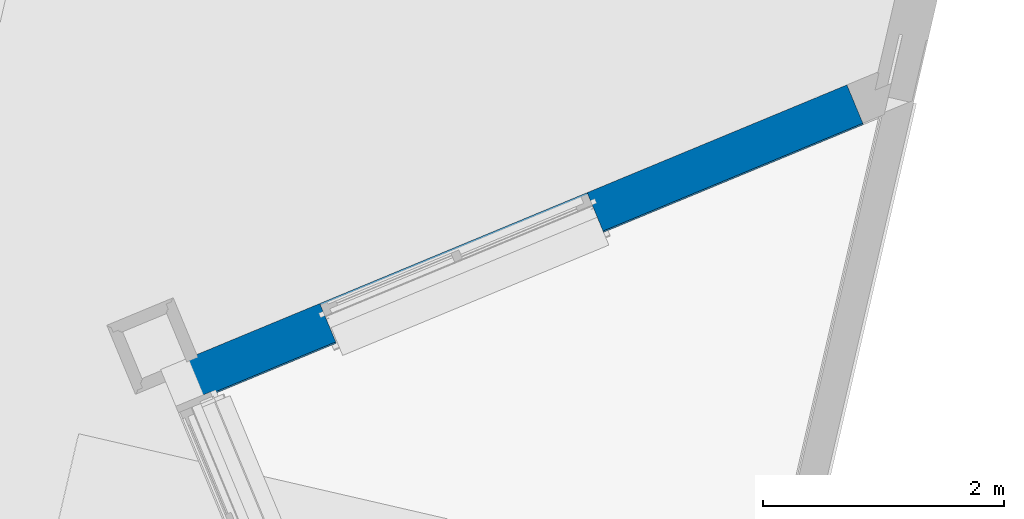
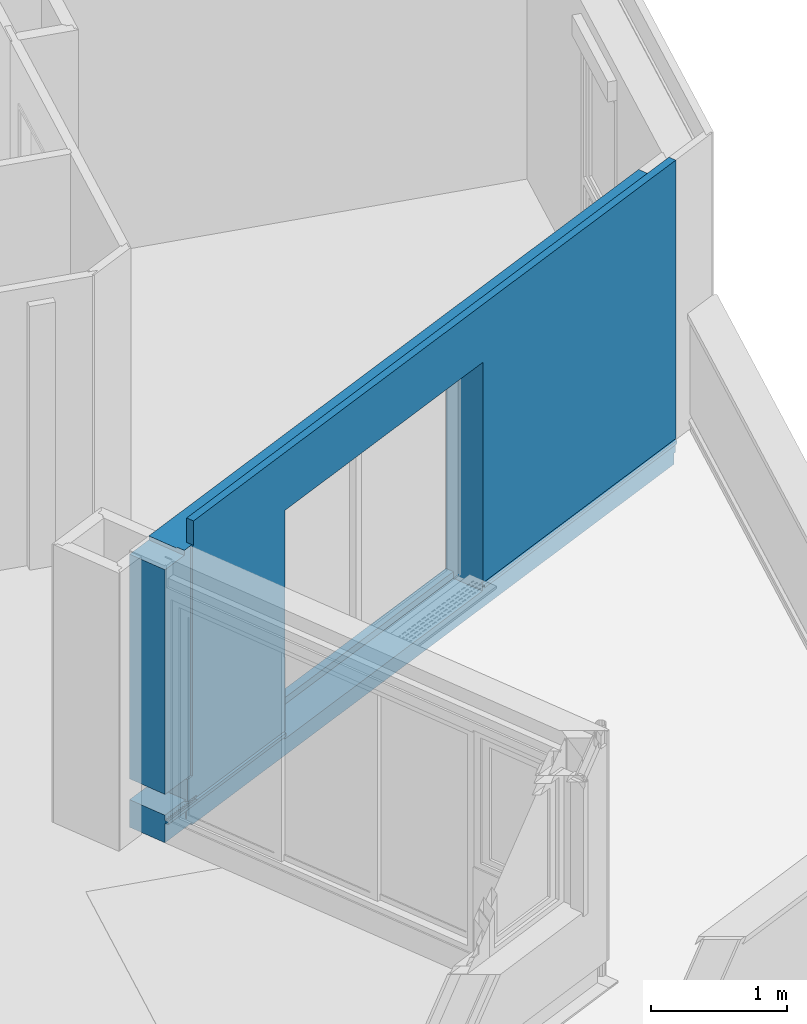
# One storey, part 5 of 62: 1 wall, 1 opening.
"""IFC2X3 building model written with IfcOpenShell, lengths in metres."""

from ifc_helpers import new_model, entity, si_unit, converted_unit, derived_unit, money_unit, direction, frame, origin_with_axes, place, context, subcontext, project, spatial, faceted_brep, material, material_list, type_object, element, save


model = new_model("IFC2X3")

# Units and contexts
model_context = context("Model", 3, precision=1e-05, world=origin_with_axes(), true_north=direction((0.0, 1.0)))
body_context = subcontext(model_context, "Body", "Model", "MODEL_VIEW")
ifc_project = project(units=[si_unit("LENGTHUNIT", "METRE"), si_unit("AREAUNIT", "SQUARE_METRE"), si_unit("VOLUMEUNIT", "CUBIC_METRE"), converted_unit("PLANEANGLEUNIT", "DEGREE", entity("IfcPlaneAngleMeasure", 0.0174532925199), si_unit("PLANEANGLEUNIT", "RADIAN"), dimensions=[0, 0, 0, 0, 0, 0, 0]), si_unit("SOLIDANGLEUNIT", "STERADIAN"), money_unit("EUR"), converted_unit("TIMEUNIT", "Year", entity("IfcTimeMeasure", 31556926.0), si_unit("TIMEUNIT", "SECOND"), dimensions=[0, 0, 1, 0, 0, 0, 0]), si_unit("MASSUNIT", "GRAM", prefix="KILO"), si_unit("THERMODYNAMICTEMPERATUREUNIT", "DEGREE_CELSIUS"), si_unit("LUMINOUSINTENSITYUNIT", "LUMEN"), si_unit("ENERGYUNIT", "JOULE", prefix="MEGA"), derived_unit("THERMALCONDUCTANCEUNIT", [(si_unit("POWERUNIT", "WATT"), 1), (si_unit("LENGTHUNIT", "METRE"), -1), (si_unit("THERMODYNAMICTEMPERATUREUNIT", "KELVIN"), -1)]), derived_unit("SPECIFICHEATCAPACITYUNIT", [(si_unit("ENERGYUNIT", "JOULE"), 1), (si_unit("MASSUNIT", "GRAM", prefix="KILO"), -1), (si_unit("THERMODYNAMICTEMPERATUREUNIT", "KELVIN"), -1)]), derived_unit("MASSDENSITYUNIT", [(si_unit("MASSUNIT", "GRAM", prefix="KILO"), 1), (si_unit("VOLUMEUNIT", "CUBIC_METRE"), -1)])], contexts=[model_context])

# Site, building, storey
site_placement = place(None, origin_with_axes())
site = spatial("IfcSite", under=ifc_project, at=site_placement, Name="Site", CompositionType="ELEMENT")
building_placement = place(site_placement, origin_with_axes())
building = spatial("IfcBuilding", under=site, at=building_placement, Name="Bâtiment", CompositionType="ELEMENT")
storey_placement = place(building_placement, frame((0.0, 0.0, 8.16), z_axis=(0.0, 0.0, 1.0), x_axis=(1.0, 0.0, 0.0)))
storey = spatial("IfcBuildingStorey", under=building, at=storey_placement, Name="R+3", CompositionType="ELEMENT", Elevation=8.16)

# Wall, opening
ifc_material_1 = material(Name="Finition int - Plaque de plâtre")
ifc_material_2 = material(Name="Isolation - Polystyrène extrudé")
ifc_material_3 = material(Name="Bloc ELITHERM")
ifc_material_4 = material(Name="Mortier")
ifc_material_5 = material(Name="Béton cellulaire")
ifc_material_6 = material(Name="Etanchéité - Bitume")
ifc_material_7 = material(Name="Finition ext - Crépis")
ifc_material_8 = material(Name="Métal - Aluminium")
ifc_material_list = material_list([ifc_material_1, ifc_material_2, ifc_material_3, ifc_material_4, ifc_material_5, ifc_material_6, ifc_material_7, ifc_material_8])
wall_type = type_object("IfcWallType", Name="Mur ALKERN + planelle 23 TERRASSE 356 x 2740", PredefinedType="USERDEFINED")
wall_placement = place(storey_placement, frame((-12.0075058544, -16.3282735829, 0.0), z_axis=(0.0, 0.0, 1.0), x_axis=(0.923701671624, 0.383112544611, 0.0)))
wall = element("IfcWall", 1, at=wall_placement, inside=storey, type_object=wall_type, material=ifc_material_list, Name="Mue bloc ALKERN isolé", ObjectType="SOLIDWALL", context=body_context, shape_type="Brep", body=[
    faceted_brep([(-0.32500000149, 0.335000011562, 0.267793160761), (-0.32499999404, 0.335000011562, 0.02), (0.0, 0.335000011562, 0.0199999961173), (0.0, 0.335000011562, 0.0), (5.83849359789, 0.335000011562, 0.0), (5.83849359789, 0.335000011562, 2.50955001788), (-0.092, 0.335000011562, 2.50955), (-0.092, 0.335000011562, 2.475), (-0.32500000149, 0.335000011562, 2.475), (-0.32500000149, 0.335000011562, 0.455), (-0.0749999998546, 0.335000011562, 0.455), (-0.0749999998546, 0.335000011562, 0.267793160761), (1.10500282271, 0.335000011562, 2.22), (1.10500282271, 0.335000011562, 2.4), (3.50500282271, 0.335000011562, 2.4), (3.50500282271, 0.335000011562, 2.22), (3.50500282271, 0.335000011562, 0.22), (1.10500282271, 0.335000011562, 0.22), (-0.32500000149, 0.345000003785, 0.267793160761), (-0.32499999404, 0.345000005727, 0.02), (0.0, 0.345000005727, 0.0199999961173), (0.0, 0.345000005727, 0.0), (5.83849359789, 0.344999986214, 0.0), (5.83849359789, 0.344999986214, 2.50955001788), (-0.092, 0.344999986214, 2.50955), (-0.092, 0.345000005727, 2.475), (-0.32500000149, 0.344999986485, 2.475), (-0.32500000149, 0.345000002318, 0.455), (-0.0749999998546, 0.345000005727, 0.455), (-0.0749999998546, 0.345000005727, 0.267793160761), (1.10500282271, 0.345000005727, 2.22), (1.10500282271, 0.345000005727, 2.4), (3.50500282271, 0.345000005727, 2.4), (3.50500282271, 0.345000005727, 2.22), (3.50500282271, 0.345000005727, 0.22), (1.10500282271, 0.345000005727, 0.22)], [[[0, 1, 2, 3, 4, 5, 6, 7, 8, 9, 10, 11], [12, 13, 14, 15, 16, 17]], [[18, 19, 1, 0]], [[1, 19, 20, 2]], [[3, 2, 20, 21]], [[3, 21, 22, 4]], [[22, 23, 5, 4]], [[6, 5, 23, 24]], [[6, 24, 25, 7]], [[25, 26, 8, 7]], [[26, 27, 9, 8]], [[10, 9, 27, 28]], [[10, 28, 29, 11]], [[29, 18, 0, 11]], [[13, 12, 30, 31]], [[14, 13, 31, 32]], [[15, 14, 32, 33]], [[15, 33, 34, 16]], [[16, 34, 35, 17]], [[30, 12, 17, 35]], [[19, 18, 29, 28, 27, 26, 25, 24, 23, 22, 21, 20], [31, 30, 35, 34, 33, 32]]]),
    faceted_brep([(3.50500282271, 0.233560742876, 0.22), (3.50500282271, 0.21499997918, 0.22), (3.50500282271, 0.21499997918, 2.22), (3.50500282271, 0.233560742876, 2.22), (3.50500282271, 0.21499997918, 0.16), (3.50500282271, 0.274560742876, 0.22), (3.50500282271, 0.274560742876, 0.16), (-0.092, 0.21499997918, 2.50955), (-0.092, 0.21499997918, 2.475), (-0.32500000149, 0.21499997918, 2.475), (-0.32500000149, 0.21499997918, 0.455), (-0.0749999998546, 0.21499997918, 0.455), (-0.0749999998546, 0.21499997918, 0.267793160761), (-0.32500000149, 0.21499997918, 0.267793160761), (-0.32499999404, 0.21499997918, 0.02), (0.0, 0.21499997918, 0.0199999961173), (0.0, 0.21499997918, 0.0), (5.83849359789, 0.21499997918, 0.0), (5.83849359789, 0.21499997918, 2.50955001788), (1.10500282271, 0.21499997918, 0.16), (1.10500282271, 0.21499997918, 0.22), (1.10500282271, 0.21499997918, 2.22), (1.10500282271, 0.21499997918, 2.4), (3.50500282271, 0.21499997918, 2.4), (3.50500282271, 0.335000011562, 2.4), (3.50500282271, 0.335000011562, 2.22), (3.50500282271, 0.335000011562, 0.22), (1.10500282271, 0.274560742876, 0.22), (1.10500282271, 0.274560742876, 0.16), (-0.092, 0.335000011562, 2.475), (-0.092, 0.335000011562, 2.50955), (-0.32500000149, 0.335000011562, 2.475), (-0.32500000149, 0.335000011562, 0.455), (-0.0749999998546, 0.335000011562, 0.455), (-0.0749999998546, 0.335000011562, 0.267793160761), (-0.32500000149, 0.335000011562, 0.267793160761), (-0.32499999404, 0.335000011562, 0.02), (0.0, 0.335000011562, 0.0199999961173), (0.0, 0.335000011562, 0.0), (5.83849359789, 0.335000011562, 0.0), (5.83849359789, 0.335000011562, 2.50955001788), (1.10500282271, 0.233560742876, 0.22), (1.10500282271, 0.233560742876, 2.22), (1.10500282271, 0.335000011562, 2.22), (1.10500282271, 0.335000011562, 2.4), (1.10500282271, 0.335000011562, 0.22)], [[[0, 1, 2, 3]], [[4, 1, 0, 5, 6]], [[7, 8, 9, 10, 11, 12, 13, 14, 15, 16, 17, 18], [19, 20, 21, 22, 23, 2, 1, 4]], [[24, 25, 3, 2, 23]], [[5, 0, 3, 25, 26]], [[5, 27, 28, 6]], [[19, 4, 6, 28]], [[29, 8, 7, 30]], [[9, 8, 29, 31]], [[10, 9, 31, 32]], [[32, 33, 11, 10]], [[34, 12, 11, 33]], [[13, 12, 34, 35]], [[14, 13, 35, 36]], [[37, 15, 14, 36]], [[37, 38, 16, 15]], [[39, 17, 16, 38]], [[40, 18, 17, 39]], [[40, 30, 7, 18]], [[41, 20, 19, 28, 27]], [[20, 41, 42, 21]], [[42, 43, 44, 22, 21]], [[22, 44, 24, 23]], [[29, 30, 40, 39, 38, 37, 36, 35, 34, 33, 32, 31], [26, 25, 24, 44, 43, 45]], [[27, 5, 26, 45]], [[41, 27, 45, 43, 42]]]),
    faceted_brep([(3.50500282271, 0.214999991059, 0.22), (3.50500282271, 0.0150000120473, 0.22), (3.50500282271, 0.015, 0.229414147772), (3.50500282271, 0.0160453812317, 0.229727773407), (3.50500282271, 0.0160453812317, 0.267793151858), (3.50500282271, 0.015, 0.267793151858), (3.50500282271, 0.015, 2.22), (3.50500282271, 0.203560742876, 2.22), (3.50500282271, 0.214999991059, 2.22), (3.50500282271, 0.0150000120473, 0.16), (3.50500282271, 0.214999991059, 0.16), (5.83849359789, 0.0150000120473, 0.220000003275), (5.83849359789, 0.015, 0.229414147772), (5.83849359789, 0.0160453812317, 0.229727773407), (5.83849359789, 0.0160453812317, 0.267793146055), (5.83849359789, 0.015, 0.267793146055), (-0.092, 0.015, 2.50955), (-0.092, 0.015, 2.475), (-0.32500000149, 0.015, 2.475), (-0.32500000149, 0.015, 0.455), (-0.0749999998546, 0.015, 0.455), (-0.0749999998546, 0.015, 0.267793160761), (1.10500282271, 0.015, 0.267793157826), (1.10500282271, 0.015, 2.22), (5.83849359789, 0.015, 2.50955001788), (1.10500282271, 0.203560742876, 2.22), (3.50500282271, 0.203560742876, 2.4), (3.50500282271, 0.214999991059, 2.4), (5.83849359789, 0.214999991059, 0.0), (0.0, 0.214999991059, 0.0), (0.0, 0.214999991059, 0.0199999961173), (-0.32499999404, 0.214999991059, 0.02), (-0.32500000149, 0.214999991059, 0.267793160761), (-0.0749999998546, 0.214999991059, 0.267793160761), (-0.0749999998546, 0.214999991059, 0.455), (-0.32500000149, 0.214999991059, 0.455), (-0.32500000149, 0.214999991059, 2.475), (-0.092, 0.214999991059, 2.475), (-0.092, 0.214999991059, 2.50955), (5.83849359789, 0.214999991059, 2.50955001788), (1.10500282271, 0.214999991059, 2.4), (1.10500282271, 0.214999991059, 2.22), (1.10500282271, 0.214999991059, 0.22), (1.10500282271, 0.214999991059, 0.16), (1.10500282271, 0.0150000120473, 0.16), (1.10500282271, 0.0150000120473, 0.22), (-0.32499999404, 0.0150000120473, 0.220000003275), (-0.32499999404, 0.0150000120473, 0.100000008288), (5.83849359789, 0.0150000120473, 0.100000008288), (5.83849359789, 0.015, 0.0), (5.83849359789, 0.0829999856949, 2.50955001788), (-0.092, 0.0829999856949, 2.50955), (-0.0749999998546, 0.0160453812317, 0.267793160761), (1.10500282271, 0.0160453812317, 0.267793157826), (1.10500282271, 0.0160453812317, 0.229727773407), (1.10500282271, 0.015, 0.229414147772), (1.10500282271, 0.203560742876, 2.4), (0.0, 0.0149999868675, 0.0), (0.0, 0.0149999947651, 0.0199999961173), (-0.32499999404, 0.0149999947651, 0.02), (-0.32499999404, 0.015, 0.229414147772), (-0.32499999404, 0.0160453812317, 0.229727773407), (-0.32500000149, 0.0160453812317, 0.267793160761)], [[[0, 1, 2, 3, 4, 5, 6, 7, 8]], [[9, 1, 0, 10]], [[11, 12, 2, 1]], [[12, 13, 3, 2]], [[13, 14, 4, 3]], [[14, 15, 5, 4]], [[16, 17, 18, 19, 20, 21, 22, 23, 6, 5, 15, 24]], [[7, 6, 23, 25]], [[7, 26, 27, 8]], [[28, 29, 30, 31, 32, 33, 34, 35, 36, 37, 38, 39], [10, 0, 8, 27, 40, 41, 42, 43]], [[44, 45, 46, 47, 48, 11, 1, 9]], [[44, 9, 10, 43]], [[11, 48, 49, 28, 39, 50, 24, 15, 14, 13, 12]], [[17, 16, 51, 38, 37]], [[36, 18, 17, 37]], [[35, 19, 18, 36]], [[19, 35, 34, 20]], [[21, 20, 34, 33, 52]], [[21, 52, 53, 22]], [[45, 42, 41, 25, 23, 22, 53, 54, 55]], [[24, 50, 51, 16]], [[25, 56, 26, 7]], [[27, 26, 56, 40]], [[29, 28, 49, 57]], [[58, 30, 29, 57]], [[31, 30, 58, 59]], [[60, 61, 62, 32, 31, 59, 47, 46]], [[32, 62, 52, 33]], [[50, 39, 38, 51]], [[41, 40, 56, 25]], [[42, 45, 44, 43]], [[60, 46, 45, 55]], [[59, 58, 57, 49, 48, 47]], [[61, 54, 53, 52, 62]], [[61, 60, 55, 54]]]),
    faceted_brep([(-0.092, 0.083, 2.52), (-0.092, 0.015, 2.52), (5.83849359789, 0.015, 2.52), (5.83849359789, 0.083, 2.52), (-0.092, 0.015, 2.50955), (-0.092, 0.083, 2.50955), (5.83849359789, 0.015, 2.50955), (5.83849359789, 0.083, 2.50955)], [[[0, 1, 2, 3]], [[4, 1, 0, 5]], [[1, 4, 6, 2]], [[6, 7, 3, 2]], [[5, 0, 3, 7]], [[4, 5, 7, 6]]]),
    faceted_brep([(0.0, 0.0630000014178, 2.74000000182), (0.0, 0.015, 2.74000000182), (5.83849359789, 0.015, 2.74), (5.83849359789, 0.0630000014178, 2.74), (0.0, 0.015, 2.51999999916), (0.0, 0.0630000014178, 2.51999999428), (5.83849359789, 0.015, 2.52000000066), (5.83849359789, 0.0630000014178, 2.52000000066)], [[[0, 1, 2, 3]], [[4, 1, 0, 5]], [[1, 4, 6, 2]], [[6, 7, 3, 2]], [[5, 0, 3, 7]], [[4, 5, 7, 6]]]),
    faceted_brep([(3.50500282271, 0.0150000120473, 0.22), (3.50500282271, 0.005, 0.22), (5.83849359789, 0.005, 0.220000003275), (5.83849359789, 0.0150000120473, 0.220000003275), (3.50500282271, 0.005, 0.16), (3.50500282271, 0.0149999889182, 0.16), (1.10500282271, 0.005, 0.16), (1.10500282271, 0.005, 0.22), (-0.32499999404, 0.005, 0.220000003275), (-0.32500000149, 0.005, 0.193633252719), (-0.0770000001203, 0.005, 0.193633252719), (-0.0770000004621, 0.005, 0.119999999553), (-0.0770000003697, 0.005, 0.100000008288), (-0.0619999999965, 0.005, 0.100000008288), (-0.0619999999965, 0.005, 0.11), (5.83849359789, 0.005, 0.11), (5.83849359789, 0.0149999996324, 0.11), (-0.0619999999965, 0.0149999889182, 0.11), (-0.0619999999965, 0.0149999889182, 0.1), (-0.0770000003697, 0.0150000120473, 0.100000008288), (-0.0770000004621, 0.0150000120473, 0.119999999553), (-0.0770000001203, 0.0150000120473, 0.193633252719), (-0.32500000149, 0.0150000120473, 0.193633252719), (-0.32499999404, 0.0150000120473, 0.220000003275), (1.10500282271, 0.0150000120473, 0.22), (1.10500282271, 0.0149999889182, 0.16)], [[[0, 1, 2, 3]], [[4, 1, 0, 5]], [[6, 7, 8, 9, 10, 11, 12, 13, 14, 15, 2, 1, 4]], [[16, 3, 2, 15]], [[5, 0, 3, 16, 17, 18, 19, 20, 21, 22, 23, 24, 25]], [[6, 4, 5, 25]], [[24, 7, 6, 25]], [[7, 24, 23, 8]], [[22, 9, 8, 23]], [[21, 10, 9, 22]], [[11, 10, 21, 20]], [[11, 20, 19, 12]], [[13, 12, 19, 18]], [[13, 18, 17, 14]], [[15, 14, 17, 16]]]),
    faceted_brep([(1.10500282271, -1.88386604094e-08, 0.236532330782), (1.10500282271, -1.7808032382e-08, 2.22), (3.50500282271, -1.7808032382e-08, 2.22), (3.50500282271, -1.88386604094e-08, 0.236532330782), (5.83849359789, -1.88386604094e-08, 0.236532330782), (5.83849359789, -1.88386604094e-08, 2.74), (0.0, -1.29153097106e-08, 2.74000000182), (0.0, -1.29153097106e-08, 2.52000000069), (-0.015, -1.29153132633e-08, 2.52), (-0.015, -1.30857404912e-08, 2.50955), (-0.015, -1.36492186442e-08, 2.475), (-0.015, -4.65935343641e-08, 0.455), (-0.04, -4.65935343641e-08, 0.455), (-0.0750000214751, -4.65935343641e-08, 0.455000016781), (-0.0749999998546, -4.96467045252e-08, 0.267793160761), (-0.0749999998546, -4.98553465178e-08, 0.255000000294), (0.0330000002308, -4.98553465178e-08, 0.255000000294), (0.0330000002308, -4.99368919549e-08, 0.24999999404), (0.033, -5.01161832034e-08, 0.239006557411), (0.033, -1.88386604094e-08, 0.236532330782), (1.10500282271, 0.0149999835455, 0.236532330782), (1.10500282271, 0.015000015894, 2.22), (3.50500282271, 0.015000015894, 2.22), (3.50500282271, 0.0149999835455, 0.236532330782), (5.83849359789, 0.0149999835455, 0.236532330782), (5.83849359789, 0.0150000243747, 2.74), (0.0, 0.0150000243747, 2.74000000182), (0.0, 0.0150000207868, 2.51999999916), (-0.015, 0.0150000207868, 2.52), (-0.015, 0.0150000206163, 2.50955), (-0.015, 0.0150000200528, 2.475), (-0.015, 0.0149999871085, 0.455), (-0.04, 0.0149999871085, 0.455), (-0.0750000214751, 0.0149999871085, 0.455000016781), (-0.0749999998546, 0.0149999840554, 0.267793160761), (-0.0749999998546, 0.0149999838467, 0.255000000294), (0.0330000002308, 0.0149999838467, 0.255000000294), (0.0330000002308, 0.0149999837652, 0.24999999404), (0.033, 0.0149999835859, 0.239006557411), (0.033, 0.0149999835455, 0.236532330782)], [[[0, 1, 2, 3, 4, 5, 6, 7, 8, 9, 10, 11, 12, 13, 14, 15, 16, 17, 18, 19]], [[1, 0, 20, 21]], [[2, 1, 21, 22]], [[3, 2, 22, 23]], [[3, 23, 24, 4]], [[4, 24, 25, 5]], [[25, 26, 6, 5]], [[27, 7, 6, 26]], [[28, 8, 7, 27]], [[9, 8, 28, 29]], [[9, 29, 30, 10]], [[10, 30, 31, 11]], [[12, 11, 31, 32]], [[12, 32, 33, 13]], [[13, 33, 34, 14]], [[14, 34, 35, 15]], [[16, 15, 35, 36]], [[17, 16, 36, 37]], [[17, 37, 38, 18]], [[18, 38, 39, 19]], [[20, 0, 19, 39]], [[21, 20, 39, 38, 37, 36, 35, 34, 33, 32, 31, 30, 29, 28, 27, 26, 25, 24, 23, 22]]]),
    faceted_brep([(1.10500282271, -0.0114392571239, 0.193633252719), (1.10500282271, -0.0114392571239, 0.22), (1.10500282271, -0.0114392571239, 0.222931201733), (0.0280000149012, -0.0114392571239, 0.222931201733), (0.0280000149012, -0.0114392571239, 0.22), (-0.0670000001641, -0.0114392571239, 0.22), (-0.0809765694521, -0.0114392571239, 0.22), (-0.236999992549, -0.0114392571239, 0.22), (-0.247000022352, -0.0114392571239, 0.22), (-0.307000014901, -0.0114392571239, 0.22), (-0.32499999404, -0.0114392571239, 0.22), (-0.32499999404, -0.0114392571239, 0.193633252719), (1.10500282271, -0.0102051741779, 0.22), (1.10500282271, -0.0102051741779, 0.193633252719), (1.10500282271, -0.0102051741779, 0.221852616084), (1.10500282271, 0.0150000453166, 0.229414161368), (1.10500282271, 0.0160453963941, 0.229727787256), (1.10500282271, 0.0160453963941, 0.267793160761), (1.10500282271, 0.015, 0.267793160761), (1.10500282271, 0.0149999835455, 0.236532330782), (1.10500282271, 0.015, 0.230774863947), (0.0280000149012, 0.00117580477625, 0.226673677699), (0.0280000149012, 0.000890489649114, 0.22658903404), (0.0280000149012, 0.015, 0.230774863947), (0.0280000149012, 0.0104133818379, 0.229414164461), (0.0280000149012, 0.00166992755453, 0.226820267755), (0.0280000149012, -0.0102051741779, 0.221852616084), (0.0280000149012, -0.0102051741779, 0.22), (0.0280000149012, 0.00558292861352, 0.22658903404), (-0.0670000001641, -0.0102051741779, 0.22), (-0.0809765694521, -0.0102051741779, 0.22), (-0.236999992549, -0.0102051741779, 0.22), (-0.247000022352, -0.0102051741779, 0.22), (-0.307000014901, -0.0102051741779, 0.22), (-0.32499999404, -0.0102051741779, 0.22), (-0.32499999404, -0.0102051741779, 0.193633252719), (0.0280000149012, 0.00586507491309, 0.226673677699), (0.0280000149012, 0.00635370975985, 0.226820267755), (0.0280000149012, 0.0150000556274, 0.229414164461), (0.0280000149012, 0.0160453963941, 0.229727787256), (0.0280000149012, 0.0160453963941, 0.250000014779), (-0.0800000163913, 0.0160453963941, 0.24999999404), (-0.0800000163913, 0.0160453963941, 0.267793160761), (0.0280000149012, 0.0160453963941, 0.236532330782), (0.0280000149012, 0.0160453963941, 0.239006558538), (-0.0800000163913, 0.015, 0.267793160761), (0.0280000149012, 0.0149999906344, 0.250000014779), (0.0280000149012, 0.0149999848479, 0.239006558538), (0.0280000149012, 0.0149999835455, 0.236532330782), (-0.0800000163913, 0.0149999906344, 0.24999999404)], [[[0, 1, 2, 3, 4, 5, 6, 7, 8, 9, 10, 11]], [[12, 1, 0, 13]], [[1, 12, 14, 15, 16, 17, 18, 19, 20, 2]], [[21, 22, 3, 2, 20, 23, 24, 25]], [[26, 27, 4, 3, 22, 28]], [[27, 29, 5, 4]], [[5, 29, 30, 6]], [[6, 30, 31, 7]], [[8, 7, 31, 32]], [[32, 33, 9, 8]], [[9, 33, 34, 10]], [[10, 34, 35, 11]], [[13, 0, 11, 35]], [[12, 13, 35, 34, 33, 32, 31, 30, 29, 27, 26, 14]], [[36, 37, 38, 15, 14, 26, 28]], [[15, 38, 39, 16]], [[40, 41, 42, 17, 16, 39, 43, 44]], [[17, 42, 45, 18]], [[46, 47, 48, 19, 18, 45, 49]], [[19, 48, 23, 20]], [[36, 28, 22, 21]], [[39, 38, 24, 23, 48, 43]], [[38, 37, 25, 24]], [[25, 37, 36, 21]], [[40, 46, 49, 41]], [[49, 45, 42, 41]], [[48, 47, 44, 43]], [[47, 46, 40, 44]]]),
    faceted_brep([(3.50500282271, -0.0102051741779, 0.22), (3.50500282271, -0.0114392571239, 0.22), (3.50500282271, -0.0114392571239, 0.222931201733), (3.50500282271, 0.015, 0.230774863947), (3.50500282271, 0.0149999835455, 0.236532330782), (3.50500282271, 0.015, 0.267793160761), (3.50500282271, 0.0160453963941, 0.267793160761), (3.50500282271, 0.0160453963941, 0.229727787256), (3.50500282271, 0.0150000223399, 0.229414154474), (3.50500282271, -0.0102051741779, 0.221852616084), (3.50500282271, -0.0114392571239, 0.193633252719), (3.50500282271, -0.0102051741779, 0.193633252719), (5.83849359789, -0.0114392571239, 0.193633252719), (5.83849359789, -0.0114392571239, 0.222931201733), (5.83849359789, 0.015, 0.230774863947), (5.83849359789, 0.0149999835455, 0.236532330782), (5.83849359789, 0.015, 0.267793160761), (5.83849359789, 0.0160453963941, 0.267793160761), (5.83849359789, 0.0160453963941, 0.229727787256), (5.83849359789, 0.015, 0.229414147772), (5.83849359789, -0.0102051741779, 0.221852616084), (5.83849359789, -0.0102051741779, 0.193633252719)], [[[0, 1, 2, 3, 4, 5, 6, 7, 8, 9]], [[10, 1, 0, 11]], [[1, 10, 12, 13, 2]], [[2, 13, 14, 3]], [[3, 14, 15, 4]], [[4, 15, 16, 5]], [[5, 16, 17, 6]], [[6, 17, 18, 7]], [[7, 18, 19, 8]], [[8, 19, 20, 9]], [[11, 0, 9, 20, 21]], [[10, 11, 21, 12]], [[15, 14, 13, 12, 21, 20, 19, 18, 17, 16]]]),
])
opening_placement = place(wall_placement, frame((2.30500282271, 0.0, 0.22), z_axis=(0.0, 0.0, 1.0), x_axis=(1.0, 0.0, 0.0)))
element("IfcOpeningElement", 2, at=opening_placement, cuts=wall, Name="MEN 121", context=body_context, shape_type="Brep", body=[
    faceted_brep([(1.2, 0.233560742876, 0.0), (-1.2, 0.233560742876, 0.0), (-1.2, 0.834999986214, 0.0), (1.2, 0.834999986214, 0.0), (1.2, 0.233560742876, 2.0), (-1.2, 0.233560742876, 2.0), (-1.2, 0.834999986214, 2.0), (1.2, 0.834999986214, 2.0)], [[[0, 1, 2, 3]], [[0, 4, 5, 1]], [[1, 5, 6, 2]], [[3, 2, 6, 7]], [[4, 0, 3, 7]], [[5, 4, 7, 6]]]),
    faceted_brep([(1.2, 0.233560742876, 0.0), (1.2, 0.233560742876, 2.0), (1.2, -0.367878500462, 2.0), (1.2, -0.367878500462, 0.0), (-1.2, 0.233560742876, 0.0), (-1.2, 0.233560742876, 2.0), (-1.2, -0.367878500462, 2.0), (-1.2, -0.367878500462, 0.0)], [[[0, 1, 2, 3]], [[0, 4, 5, 1]], [[1, 5, 6, 2]], [[3, 2, 6, 7]], [[4, 0, 3, 7]], [[5, 4, 7, 6]]]),
    faceted_brep([(1.2, 0.233560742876, 0.0), (1.2, 0.233560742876, 2.0), (1.2, -0.367878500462, 2.0), (1.2, -0.367878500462, 0.0), (-1.2, 0.233560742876, 0.0), (-1.2, 0.233560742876, 2.0), (-1.2, -0.367878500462, 2.0), (-1.2, -0.367878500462, 0.0)], [[[0, 1, 2, 3]], [[0, 4, 5, 1]], [[1, 5, 6, 2]], [[3, 2, 6, 7]], [[4, 0, 3, 7]], [[5, 4, 7, 6]]]),
    faceted_brep([(1.2, 0.203560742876, 2.0), (-1.2, 0.203560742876, 2.0), (-1.2, 0.804999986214, 2.0), (1.2, 0.804999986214, 2.0), (1.2, 0.203560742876, 2.18), (-1.2, 0.203560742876, 2.18), (-1.2, 0.804999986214, 2.18), (1.2, 0.804999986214, 2.18)], [[[0, 1, 2, 3]], [[0, 4, 5, 1]], [[1, 5, 6, 2]], [[3, 2, 6, 7]], [[4, 0, 3, 7]], [[5, 4, 7, 6]]]),
    faceted_brep([(1.2, 0.274560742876, 0.0), (-1.2, 0.274560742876, 0.0), (-1.2, -0.326878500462, 0.0), (1.2, -0.326878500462, 0.0), (1.2, 0.274560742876, -0.06), (-1.2, 0.274560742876, -0.06), (-1.2, -0.326878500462, -0.06), (1.2, -0.326878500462, -0.06)], [[[0, 1, 2, 3]], [[0, 4, 5, 1]], [[1, 5, 6, 2]], [[3, 2, 6, 7]], [[4, 0, 3, 7]], [[5, 4, 7, 6]]]),
])

save(model, "model.ifc")
